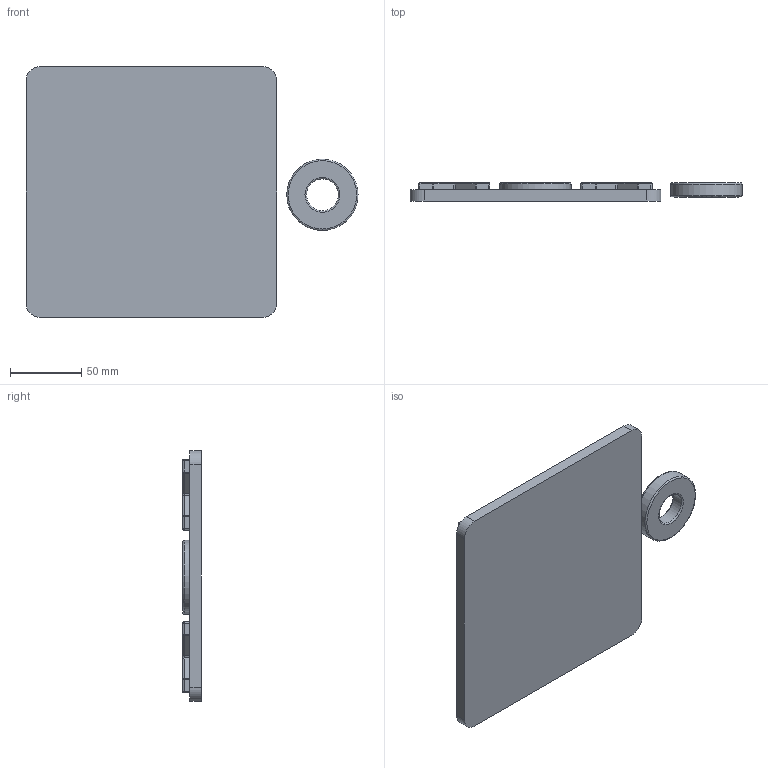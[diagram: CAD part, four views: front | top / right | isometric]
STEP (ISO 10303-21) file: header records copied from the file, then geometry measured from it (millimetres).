
FILE_DESCRIPTION(/* description */ (''),/* implementation_level */ '2;1');
FILE_NAME(/* name */ 'C:/Users/Psykk/3D Objects/Jeux/Morpion/Morpion v1.step',/* time_stamp */ '2021-12-12T11:24:44+01:00',/* author */ (''),/* organization */ (''),/* preprocessor_version */ 'ST-DEVELOPER v18.1',/* originating_system */ 'Autodesk Translation Framework v10.10.0.1391',/* authorisation */ '');
FILE_SCHEMA (('AUTOMOTIVE_DESIGN { 1 0 10303 214 3 1 1 }'));
Length unit declared in the file: millimetre
Products named in the file (1): Morpion
Bounding box: 233 x 13 x 176 mm (x, y, z)
Volume: 282183.9 mm3; surface area: 129880.7 mm2
Topology: 11 solids, 11 shells, 552 faces, 1198 edges, 677 vertices
Faces by surface type: cylinder 261, plane 151, sphere 100, torus 35, bspline 5
Full cylindrical faces by diameter (mm): 22.4 x5, 50 x5
Entity records: 15023 total; most frequent: DIRECTION 2861, CARTESIAN_POINT 2618, ORIENTED_EDGE 2396, EDGE_CURVE 1198, AXIS2_PLACEMENT_3D 1120, VERTEX_POINT 677, LINE 621, VECTOR 621
